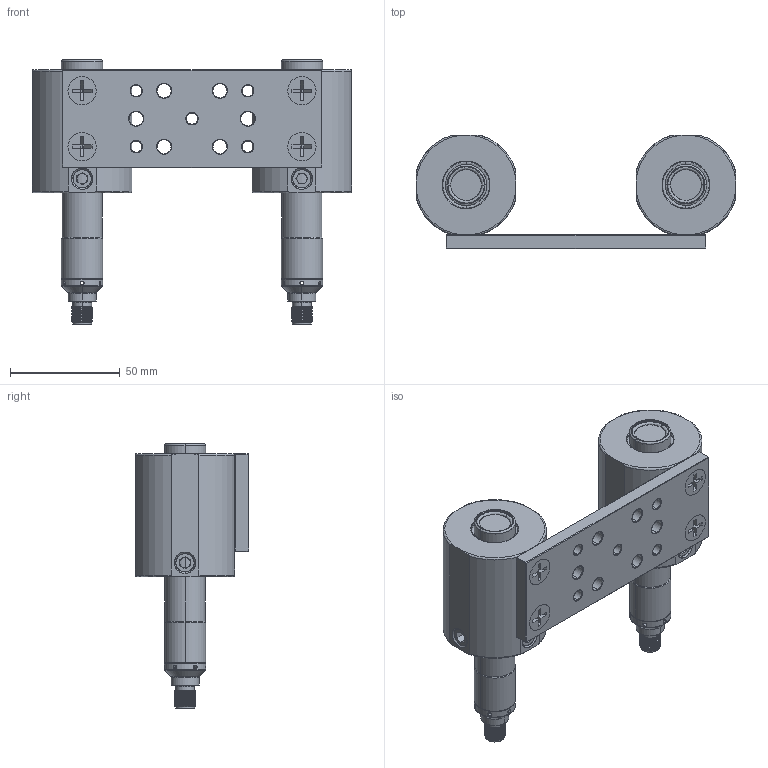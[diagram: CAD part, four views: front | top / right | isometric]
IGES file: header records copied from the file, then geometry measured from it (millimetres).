
Start section: SolidWorks IGES file using analytic representation for surfaces
Global section: file name: S:\3D_Product_Models\Lasers\MicroSeaLaser-I55W1002BCR-0C-A-20140709a_WithDualBracket.IGS; native system: SolidWorks 2014; preprocessor: SolidWorks 2014; author: CJ_Chew; date: 140709.090120; units: millimetre
Bounding box: 145.24 x 51.59 x 120.27 mm (x, y, z)
Surface area: 61055.9 mm2 (no closed solid volume)
Topology: 0 solids, 0 shells, 552 faces, 7324 edges, 7324 vertices
Faces by surface type: revolution 326, bspline 226
